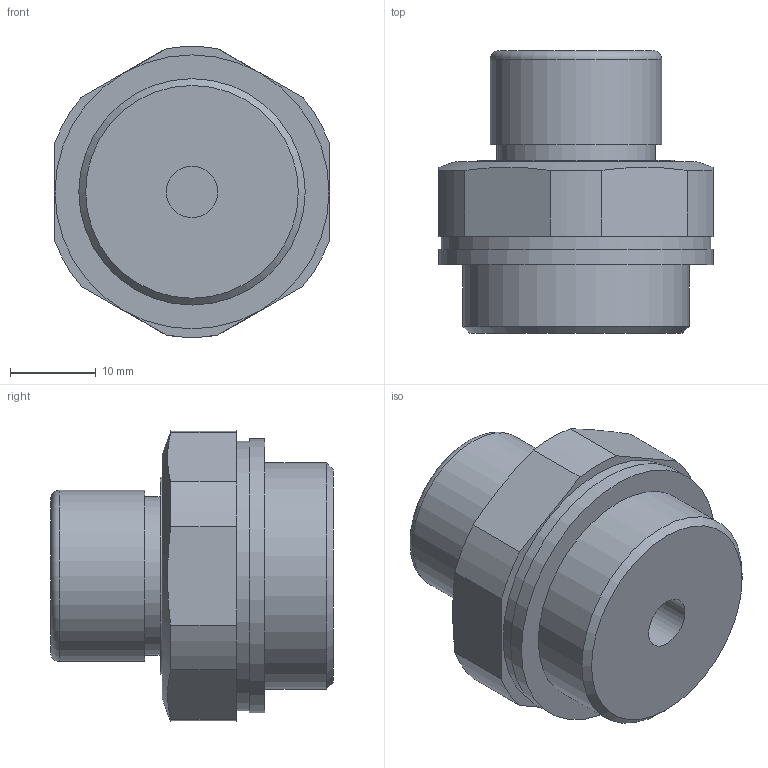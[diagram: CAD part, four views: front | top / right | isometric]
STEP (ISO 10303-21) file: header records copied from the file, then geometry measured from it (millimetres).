
FILE_DESCRIPTION( ( 'STEP AP203' ), '1' );
FILE_NAME( 'C:/Temp/Ganter_Step_05_03_2020/data/3_5/gn882/Breather filters GN 882-G3_4-MS-M.stp', '2020-03-12T13:42:43', ( 'License CC BY-ND 4.0' ), ( 'CADENAS' ), ' ', 'PARTsolutions', ' ' );
FILE_SCHEMA( ( 'CONFIG_CONTROL_DESIGN' ) );
Length unit declared in the file: millimetre
Products named in the file (1): _Breather filters GN 882-G3/4-MS-M
Bounding box: 32 x 33 x 33.97 mm (x, y, z)
Volume: 17962.8 mm3; surface area: 4749.9 mm2
Topology: 1 solids, 1 shells, 33 faces, 67 edges, 44 vertices
Faces by surface type: plane 16, cylinder 14, cone 2, torus 1
Full cylindrical faces by diameter (mm): 6 x1, 18.5 x1, 19 x1, 20 x1, 23 x1, 26.441 x1, 31.5 x1, 32 x1
Entity records: 870 total; most frequent: CARTESIAN_POINT 158, DIRECTION 148, ORIENTED_EDGE 110, AXIS2_PLACEMENT_3D 65, EDGE_CURVE 55, EDGE_LOOP 52, VERTEX_POINT 43, FACE_OUTER_BOUND 42
